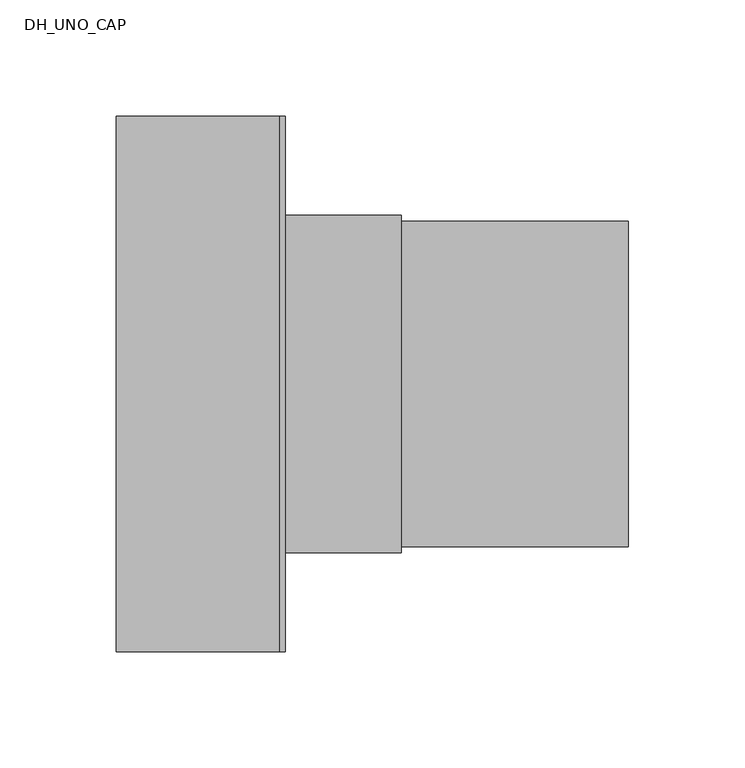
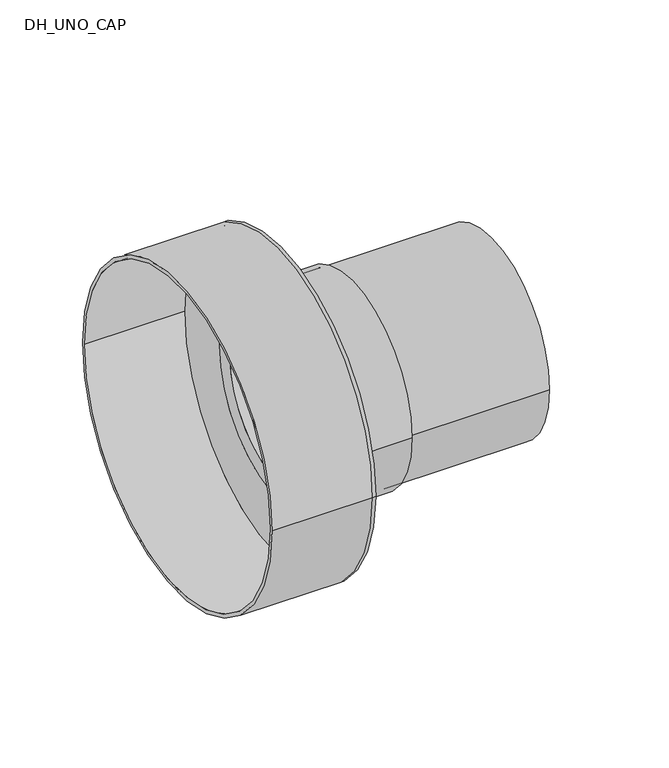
"""IFC4 building model written with IfcOpenShell, lengths in millimetres: pipe fitting geometry, DH_UNO_CAP : RAUVIPEX UNO 11 Heating - Rubber Cap."""

from ifc_helpers import new_model, si_unit, point, frame, origin, origin_2d, place, context, project, spatial, polyline, circle_curve, trimmed, segment, composite_curve, outline, extrude, source, transform, mapped, element, save
from ifc_brep_helpers import plane_surface, cylinder_surface, revolved_surface, advanced_brep


def dh_uno_cap_cf52e909(model_context):
    return source(origin(), model_context, "Body", "SolidModel", [
        extrude(outline(composite_curve([segment(trimmed(circle_curve(origin_2d(), 70.0), [point((-70.0, 0.0))], [point((70.0, 0.0))], False, "CARTESIAN"), True, "CONTINUOUS"), segment(trimmed(circle_curve(origin_2d(), 70.0), [point((70.0, 0.0))], [point((-70.0, 0.0))], False, "CARTESIAN"), True, "CONTINUOUS")], self_intersect=False), holes=[composite_curve([segment(trimmed(circle_curve(origin_2d(), 57.3), [point((-57.3, 0.0))], [point((57.3, 0.0))], True, "CARTESIAN"), True, "CONTINUOUS"), segment(trimmed(circle_curve(origin_2d(), 57.3), [point((57.3, 0.0))], [point((-57.3, 0.0))], True, "CARTESIAN"), True, "CONTINUOUS")], self_intersect=False)]), frame((0.0, 0.0, 0.0), z_axis=(1.0, 0.0, 0.0), x_axis=(0.0, 1.0, 0.0)), (0.0, 0.0, 1.0), 150.0),
        advanced_brep(
        [(-70.0, -115.0, 0.0), (-70.0, 115.0, 0.0), (-70.0, -112.5, 0.0), (-70.0, 112.5, 0.0), (0.0, -112.5, 0.0), (0.0, 112.5, 0.0), (0.0, -115.0, 0.0), (0.0, 115.0, 0.0), (0.0, 70.0, 0.0), (0.0, -70.0, 0.0), (2.5, -115.0, 0.0), (2.5, 115.0, 0.0), (2.5, -70.0, 0.0), (2.5, 70.0, 0.0)],
        [
            (0, 1, circle_curve(frame((-70.0, 0.0, 0.0), z_axis=(-1.0, 0.0, 0.0), x_axis=(0.0, 1.0, 0.0)), 115.0)),
            (1, 0, circle_curve(frame((-70.0, 0.0, 0.0), z_axis=(-1.0, 0.0, 0.0), x_axis=(0.0, 1.0, 0.0)), 115.0)),
            (2, 3, circle_curve(frame((-70.0, 0.0, 0.0), z_axis=(1.0, 0.0, 0.0), x_axis=(0.0, 1.0, 0.0)), 112.5)),
            (3, 2, circle_curve(frame((-70.0, 0.0, 0.0), z_axis=(1.0, 0.0, 0.0), x_axis=(0.0, 1.0, 0.0)), 112.5)),
            (2, 4),
            (4, 5, circle_curve(frame((0.0, 0.0, 0.0), z_axis=(1.0, 0.0, 0.0), x_axis=(0.0, 1.0, 0.0)), 112.5)),
            (5, 3),
            (5, 4, circle_curve(frame((0.0, 0.0, 0.0), z_axis=(1.0, 0.0, 0.0), x_axis=(0.0, 1.0, 0.0)), 112.5)),
            (0, 6),
            (6, 7, circle_curve(frame((0.0, 0.0, 0.0), z_axis=(-1.0, 0.0, 0.0), x_axis=(0.0, 1.0, 0.0)), 115.0)),
            (7, 1),
            (7, 6, circle_curve(frame((0.0, 0.0, 0.0), z_axis=(-1.0, 0.0, 0.0), x_axis=(0.0, 1.0, 0.0)), 115.0)),
            (8, 9, circle_curve(frame((0.0, 0.0, 0.0), z_axis=(1.0, 0.0, 0.0), x_axis=(0.0, 1.0, 0.0)), 70.0)),
            (9, 8, circle_curve(frame((0.0, 0.0, 0.0), z_axis=(1.0, 0.0, 0.0), x_axis=(0.0, 1.0, 0.0)), 70.0)),
            (10, 11, circle_curve(frame((2.5, 0.0, 0.0), z_axis=(1.0, 0.0, 0.0), x_axis=(0.0, 1.0, 0.0)), 115.0)),
            (11, 10, circle_curve(frame((2.5, 0.0, 0.0), z_axis=(1.0, 0.0, 0.0), x_axis=(0.0, 1.0, 0.0)), 115.0)),
            (12, 13, circle_curve(frame((2.5, 0.0, 0.0), z_axis=(-1.0, 0.0, 0.0), x_axis=(0.0, 1.0, 0.0)), 70.0)),
            (13, 12, circle_curve(frame((2.5, 0.0, 0.0), z_axis=(-1.0, 0.0, 0.0), x_axis=(0.0, 1.0, 0.0)), 70.0)),
            (11, 7),
            (6, 10),
            (8, 13),
            (12, 9),
        ],
        [
            plane_surface(frame((-70.0, 0.0, 0.0), z_axis=(-1.0, 0.0, 0.0), x_axis=(0.0, 0.0, 1.0))),
            revolved_surface(polyline([(0.0, 112.5, 0.0), (-70.0, 112.5, 0.0)]), (-70.0, 0.0, 0.0), (1.0, 0.0, 0.0)),
            cylinder_surface(frame((-70.0, 0.0, 0.0), z_axis=(-1.0, 0.0, 0.0), x_axis=(0.0, 1.0, 0.0)), 115.0),
            plane_surface(frame((0.0, 0.0, 0.0), z_axis=(-1.0, 0.0, 0.0), x_axis=(0.0, 0.0, 1.0))),
            plane_surface(frame((2.5, 0.0, 0.0), z_axis=(1.0, 0.0, 0.0), x_axis=(0.0, 0.0, 1.0))),
            cylinder_surface(frame((0.0, 0.0, 0.0), z_axis=(-1.0, 0.0, 0.0), x_axis=(0.0, 1.0, 0.0)), 115.0),
            revolved_surface(polyline([(0.0, 70.0, 0.0), (2.5, 70.0, 0.0)]), (0.0, 0.0, 0.0), (-1.0, 0.0, 0.0)),
        ],
        [
            (0, [[1, 2], [3, 4]]),
            (1, [[-3, 5, 6, 7]]),
            (1, [[-4, -7, 8, -5]]),
            (2, [[-1, 9, 10, 11]]),
            (2, [[-2, -11, 12, -9]]),
            (3, [[-6, -8], [13, 14]]),
            (4, [[15, 16], [17, 18]]),
            (5, [[-16, 19, -10, 20]]),
            (5, [[-15, -20, -12, -19]]),
            (6, [[21, -17, 22, -13]]),
            (6, [[-21, -14, -22, -18]]),
        ],
    ),
        extrude(outline(composite_curve([segment(trimmed(circle_curve(origin_2d(), 72.5), [point((-72.5, 0.0))], [point((72.5, 0.0))], False, "CARTESIAN"), True, "CONTINUOUS"), segment(trimmed(circle_curve(origin_2d(), 72.5), [point((72.5, 0.0))], [point((-72.5, 0.0))], False, "CARTESIAN"), True, "CONTINUOUS")], self_intersect=False), holes=[composite_curve([segment(trimmed(circle_curve(origin_2d(), 70.0), [point((-70.0, 0.0))], [point((70.0, 0.0))], True, "CARTESIAN"), True, "CONTINUOUS"), segment(trimmed(circle_curve(origin_2d(), 70.0), [point((70.0, 0.0))], [point((-70.0, 0.0))], True, "CARTESIAN"), True, "CONTINUOUS")], self_intersect=False)]), frame((2.5, 0.0, 0.0), z_axis=(1.0, 0.0, 0.0), x_axis=(0.0, 1.0, 0.0)), (0.0, 0.0, 1.0), 50.0),
    ])


if __name__ == "__main__":
    model = new_model("IFC4")
    model_context = context("Model", 3, world=origin())
    ifc_project = project(units=[si_unit("LENGTHUNIT", "METRE", prefix="MILLI")], contexts=[model_context])
    site = spatial("IfcSite", under=ifc_project)
    building = spatial("IfcBuilding", under=site)
    placement = place(None, origin())
    dh_uno_cap_shape = dh_uno_cap_cf52e909(model_context)
    element("IfcPipeFitting", 1, ObjectType="DH_UNO_CAP : RAUVIPEX UNO 11 Heating - Rubber Cap", at=placement, inside=building, context=model_context, shape_type="MappedRepresentation", body=[
        mapped(dh_uno_cap_shape, transform((0.0, 0.0, 0.0), x_axis=(1.0, 0.0, 0.0), y_axis=(0.0, 1.0, 0.0), z_axis=(0.0, 0.0, 1.0))),
    ])
    save(model, "model.ifc")
